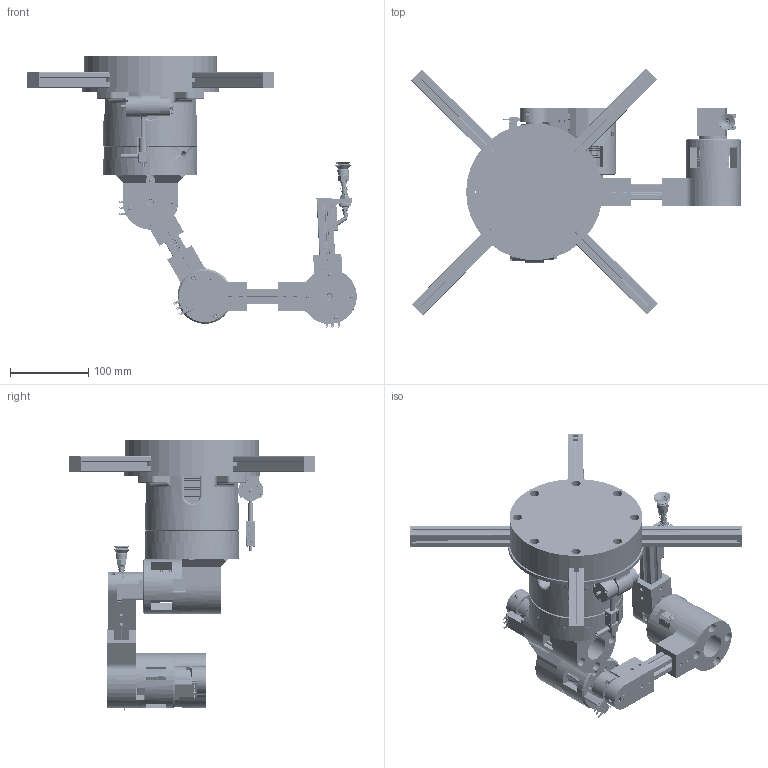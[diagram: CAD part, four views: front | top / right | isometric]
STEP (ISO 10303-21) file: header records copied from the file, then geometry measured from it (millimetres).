
FILE_DESCRIPTION(/* description */ ('','CAx-IF Rec.Pracs.---Representation and Presentation of Product Manufacturing Information (PMI)---4.0---2014-10-13'),/* implementation_level */ '2;1');
FILE_NAME(/* name */ 'Assieme_antropomorfo_ventosa2.stp',/* time_stamp */ '2026-03-07T11:02:31+01:00',/* author */ ('R5800u'),/* organization */ (''),/* preprocessor_version */ 'ST-DEVELOPER v20',/* originating_system */ 'Autodesk Inventor 2025',/* authorisation */ '');
FILE_SCHEMA (('AP242_MANAGED_MODEL_BASED_3D_ENGINEERING_MIM_LF { 1 0 10303 442 1 1 4 }'));
Products named in the file (56): Assieme_bracci_nema_riduttore3; tslot-20x20-4; blocco_nema_riduttore2; blocco_nema_riduttore; riduttore_nema17_3; blocco_base; tslot-20x20-5; blocco_nema_riduttore2_1; NEMA 42SHDC3030Z; blocco_nema; ANSI B18.3.1M - M4x0,7 x 50, FSHCSM; blocco_albero; riduttore_nema17; blocco_nema2; NEMA 17HS4401S-PG518; base_01; maschera; ISO 104 - 1 11 50 x 70 x 14; blocco_alto_base; AS 1112 - M5  Tipo 5; ANSI B18.3.1M - M5x0,8 x 30, FSHCSM; Assieme_tappo_tslot; tappo6; tslot-20x20-3; blocco_finecorsa; blocco_finecorsa2; blocco_finecorsa3; Microswitch-SS-3GL13SL; limit-switch-bottomcase; limit-switch-top-case; pins; switch_lever; R.03.Suction Grab; R.03.01.Cup; R.03.02.Tube; R.03.03.Spring; R.03.04.Fitting; DIN 3771 - 5 x 1,8 - N - NBR 70; R.03.05.Interface; R.03.06.Nut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
Assembly tree (92 placements, depth 4):
  Assieme_bracci_nema_riduttore3
    tslot-20x20-4
    blocco_nema_riduttore2
      NEMA 42SHDC3030Z
      blocco_nema
      ANSI B18.3.1M - M4x0,7 x 50, FSHCSM  x4
      blocco_albero
      riduttore_nema17
    blocco_nema_riduttore
      NEMA 42SHDC3030Z
      blocco_nema
      ANSI B18.3.1M - M4x0,7 x 50, FSHCSM  x4
      blocco_albero
      riduttore_nema17_3
    blocco_base
    tslot-20x20-5
    blocco_nema2  x2
    blocco_nema_riduttore2_1
      NEMA 42SHDC3030Z
      blocco_nema
      ANSI B18.3.1M - M4x0,7 x 50, FSHCSM  x4
      blocco_albero
      riduttore_nema17
    NEMA 17HS4401S-PG518
    base_01
    maschera
    ISO 104 - 1 11 50 x 70 x 14
    blocco_alto_base
    AS 1112 - M5  Tipo 5  x4
    ANSI B18.3.1M - M5x0,8 x 30, FSHCSM  x4
    Assieme_tappo_tslot
      tappo6
      tslot-20x20-3  x4
      tappo_01  x4
    Microswitch-SS-3GL13SL  x3
      limit-switch-bottomcase
      limit-switch-top-case
      pins
      switch_lever
    blocco_finecorsa
    blocco_finecorsa2
    blocco_finecorsa3
    R.03.Suction Grab
      R.03.01.Cup
      R.03.02.Tube
      R.03.03.Spring
      R.03.04.Fitting
      DIN 3771 - 5 x 1,8 - N - NBR 70
      R.03.05.Interface
      R.03.06.Nut
      blocco_ventosa_profilato
      tslot-20x20-100mm
      tubo_silicone
    tappo_01
    base_ferro
    blocco_pompa_vuoto
      Vacuum Pump
        0-80x0.5" Screw  x3
        Cap
        Body
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Bounding box: 420.96 x 314.84 x 346.34 mm (x, y, z)
Volume: 3480504.8 mm3; surface area: 840194.8 mm2
Topology: 143 solids, 145 shells, 7858 faces, 20119 edges, 12792 vertices
Faces by surface type: plane 5468, cylinder 1589, cone 289, bspline 246, torus 173, sphere 93
Full cylindrical faces by diameter (mm): 1.1 x12, 1.112 x117, 1.14 x1, 1.2 x21, 1.221 x27, 1.23 x4, 1.25 x2, 1.454 x27, 1.5 x53, 1.524 x114, 1.6 x8, 1.75 x3, 1.8 x8, 2 x15, 2.202 x1, 2.4 x3, 2.5 x7, 2.7 x4, 2.9 x7, 2.946 x3, 3 x27, 3.2 x54, 3.4 x2, 3.81 x2, 3.9 x1, 4 x15, 4.02 x1, 4.08 x1, 4.092 x2, 4.134 x4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
Entity records: 202488 total; most frequent: CARTESIAN_POINT 79620, DIRECTION 23780, ORIENTED_EDGE 22480, EDGE_CURVE 11250, AXIS2_PLACEMENT_3D 7945, LINE 7890, VECTOR 7890, VERTEX_POINT 7252
